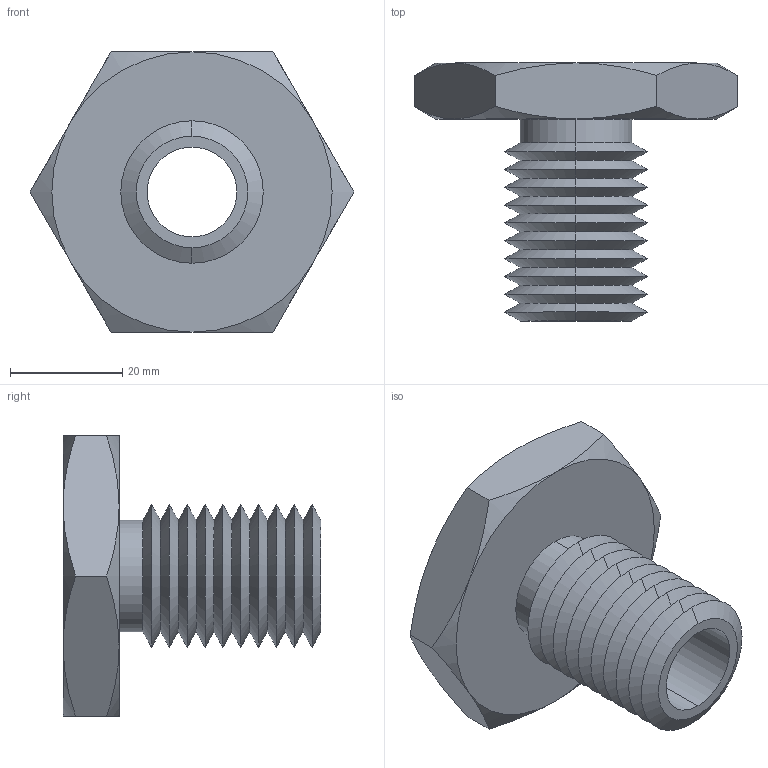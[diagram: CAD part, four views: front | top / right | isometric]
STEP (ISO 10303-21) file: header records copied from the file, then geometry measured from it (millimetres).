
FILE_DESCRIPTION (( 'STEP AP203' ), '1' );
FILE_NAME ('63302.W5100_M16x2.step', '2013-12-08T11:39:31', ( 'User' ), ( '' ), 'SwSTEP 2.0', 'SolidWorks 2009', '' );
FILE_SCHEMA (( 'CONFIG_CONTROL_DESIGN' ));
Length unit declared in the file: millimetre
Products named in the file (1): 63302.W5100_M16x2
Bounding box: 57.73 x 46 x 50 mm (x, y, z)
Volume: 26198.4 mm3; surface area: 12502.9 mm2
Topology: 1 solids, 1 shells, 67 faces, 138 edges, 74 vertices
Faces by surface type: cone 54, plane 9, cylinder 4
Entity records: 1939 total; most frequent: CARTESIAN_POINT 464, DIRECTION 312, ORIENTED_EDGE 276, EDGE_CURVE 138, AXIS2_PLACEMENT_3D 130, VERTEX_POINT 74, EDGE_LOOP 70, ADVANCED_FACE 67
